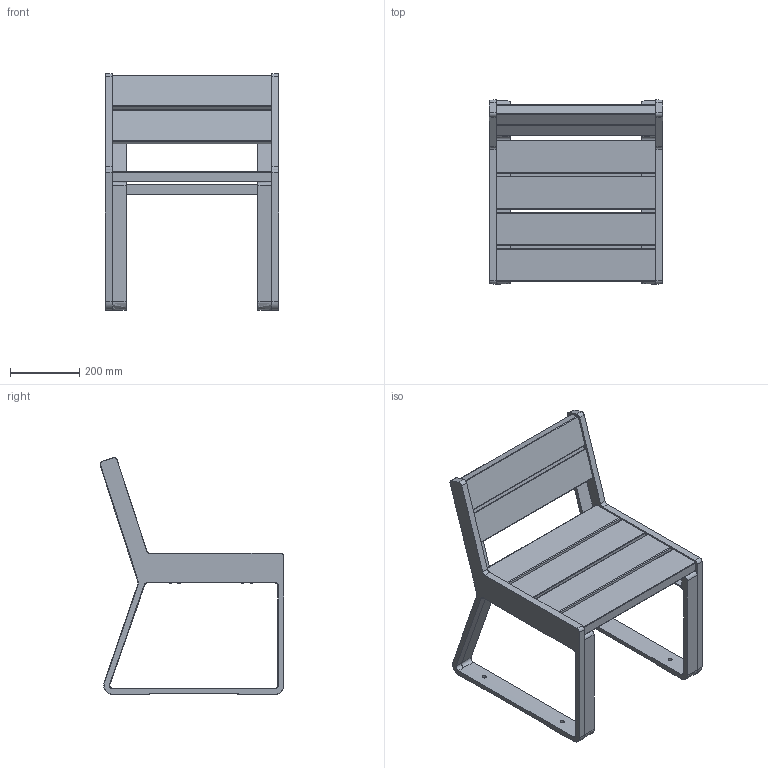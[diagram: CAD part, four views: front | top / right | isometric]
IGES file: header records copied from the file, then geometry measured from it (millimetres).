
Global section: file name: 01ハイバックベンチHB31-05,35HAutoCAD 2025; native system: - 日本語 (Japanese); preprocessor: Autodesk Translation Framework DWG producer (atf_dwg_producer); organization: unknown; date: 20250107.081950; units: millimetre
Bounding box: 500 x 530.37 x 682.29 mm (x, y, z)
Volume: 13412200.3 mm3; surface area: 2995571.2 mm2
Topology: 65 solids, 65 shells, 1233 faces, 3049 edges, 1905 vertices
Faces by surface type: bspline 1233
